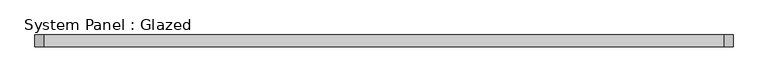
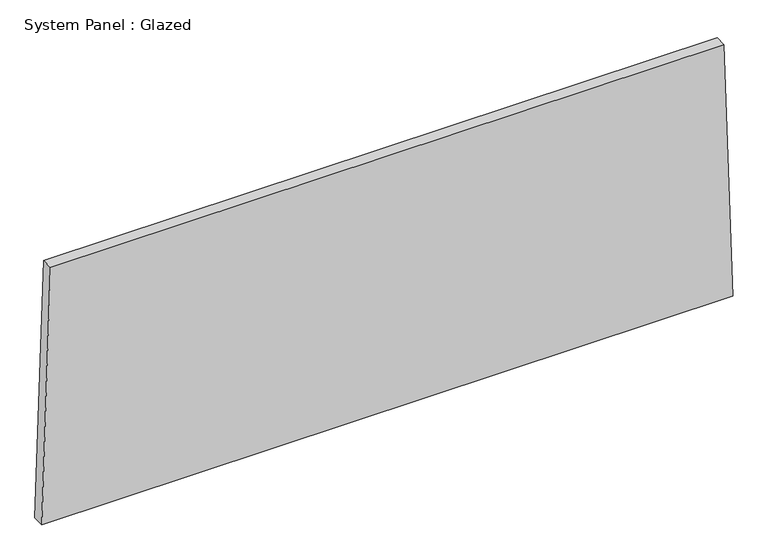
"""IFC4 building model written with IfcOpenShell, lengths in millimetres: plate geometry, System Panel : Glazed."""

from ifc_helpers import new_model, si_unit, frame, origin, place, context, project, spatial, polyline, outline, extrude, source, transform, mapped, element, save


def system_panel_glazed_aab04364(model_context):
    return source(origin(), model_context, "Body", "SweptSolid", [
        extrude(outline(polyline([(0.0, -749.9060887), (0.0, 749.9060887), (583.8784387, 730.933843), (583.8784387, -730.933843), (0.0, -749.9060887)])), frame((0.0, -44.45, 0.0), z_axis=(0.0, 1.0, 0.0), x_axis=(0.0, 0.0, 1.0)), (0.0, 0.0, 1.0), 25.4),
    ])


if __name__ == "__main__":
    model = new_model("IFC4")
    model_context = context("Model", 3, world=origin())
    ifc_project = project(units=[si_unit("LENGTHUNIT", "METRE", prefix="MILLI")], contexts=[model_context])
    site = spatial("IfcSite", under=ifc_project)
    building = spatial("IfcBuilding", under=site)
    placement = place(None, origin())
    system_panel_glazed_shape = system_panel_glazed_aab04364(model_context)
    element("IfcPlate", 1, ObjectType="System Panel : Glazed", at=placement, inside=building, context=model_context, shape_type="MappedRepresentation", body=[
        mapped(system_panel_glazed_shape, transform((0.0, 0.0, 0.0), x_axis=(1.0, 0.0, 0.0), y_axis=(0.0, 1.0, 0.0), z_axis=(0.0, 0.0, 1.0))),
    ])
    save(model, "model.ifc")
